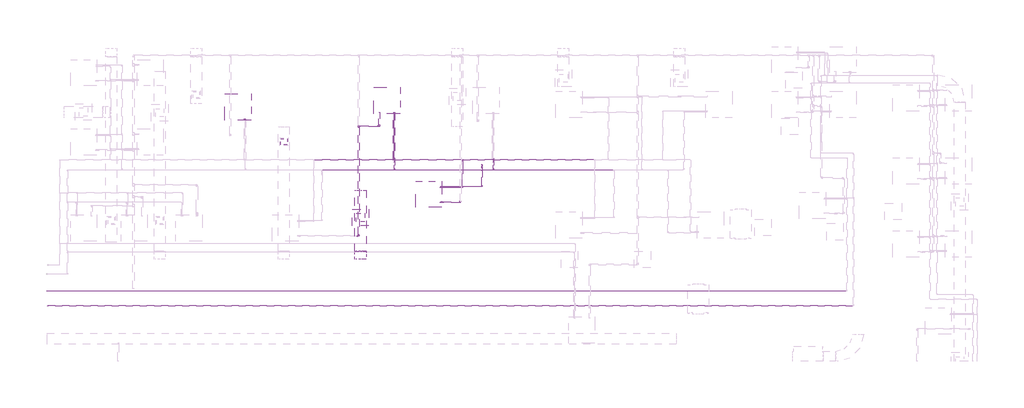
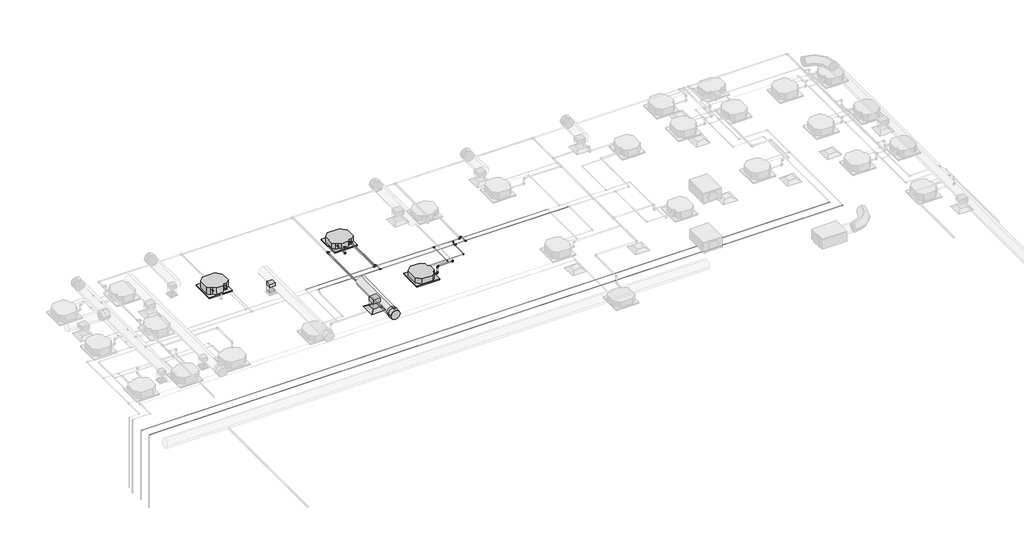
# One storey, part 16 of 22: 33 pipe fittings, 28 pipe segments, 3 duct fittings, 3 duct segments, 3 proxies, 1 air terminal.
"""IFC4 building model written with IfcOpenShell, lengths in millimetres."""

from ifc_helpers import new_model, si_unit, point, frame, frame_2d, origin, place, context, project, spatial, polyline, circle_curve, trimmed, segment, composite_curve, outline, extrude, transform, mapped, element, save
from components import air_terminal_ff221211, mechanical_equipment_77aa587a, mechanical_equipment_53173f38, duct_fitting_570af4ff, duct_fitting_f399081e, duct_fitting_95c1ddea, pipe_fitting_062ba67a, pipe_fitting_144f4440, pipe_fitting_14eb6376, pipe_fitting_c900cfc2, pipe_fitting_16c020f5, pipe_fitting_afe73776, pipe_fitting_a9265b51, pipe_fitting_09966660, pipe_fitting_501e5992, pipe_fitting_59d1f3e3, pipe_fitting_648138cd, pipe_fitting_58ab9b66, pipe_fitting_f1a24d16, pipe_fitting_da16c1b3, pipe_fitting_5a6d96d3, pipe_fitting_878c9596, pipe_fitting_9306bac7

model = new_model("IFC4")

# Units and contexts
model_context = context("Model", 3, world=origin())
ifc_project = project(units=[si_unit("LENGTHUNIT", "METRE", prefix="MILLI")], contexts=[model_context])

# Site, building, storey
site = spatial("IfcSite", under=ifc_project)
building = spatial("IfcBuilding", under=site)
storey = spatial("IfcBuildingStorey", under=building, Name="Nível 2", Elevation=3880.0)

# Air terminal
placement = place(None, origin())
air_terminal_shape = air_terminal_ff221211(model_context)
element("IfcAirTerminal", 1, ObjectType="M_Difusor de fornecimento : 600 x 600 Face 300 x 300 Conexão", at=placement, inside=storey, context=model_context, shape_type="MappedRepresentation", body=[
    mapped(air_terminal_shape, transform((8490.1041889, 3655.6977008, 6880.0), x_axis=(1.0, 0.0, 0.0), y_axis=(0.0, 1.0, 0.0), z_axis=(0.0, 0.0, 1.0))),
])

# Proxies
mechanical_equipment_shape = mechanical_equipment_77aa587a(model_context)
element("IfcBuildingElementProxy", 2, Name="Midea_VRF_Indoor_4-way Cassette_MI-56(71,80)Q4_DHN1-D (2nd DC) : MI2-71Q4DHN1", ObjectType="Midea_VRF_Indoor_4-way Cassette_MI-56(71,80)Q4_DHN1-D (2nd DC) : MI2-71Q4DHN1", at=placement, inside=storey, context=model_context, shape_type="MappedRepresentation", body=[
    mapped(mechanical_equipment_shape, transform((10949.3488999, 4497.8510207, 6880.0), x_axis=(1.0, 0.0, 0.0), y_axis=(0.0, 1.0, 0.0), z_axis=(0.0, 0.0, 1.0))),
])
element("IfcBuildingElementProxy", 3, Name="Midea_VRF_Indoor_4-way Cassette_MI-56(71,80)Q4_DHN1-D (2nd DC) : MI2-71Q4DHN1", ObjectType="Midea_VRF_Indoor_4-way Cassette_MI-56(71,80)Q4_DHN1-D (2nd DC) : MI2-71Q4DHN1", at=placement, inside=storey, context=model_context, shape_type="MappedRepresentation", body=[
    mapped(mechanical_equipment_shape, transform((9444.4233205, 7877.9692139, 6880.0), x_axis=(0.0, -1.0, 0.0), y_axis=(1.0, 0.0, 0.0), z_axis=(0.0, 0.0, 1.0))),
])
mechanical_equipment_2_shape = mechanical_equipment_53173f38(model_context)
element("IfcBuildingElementProxy", 4, Name="Midea_VRF_Indoor_4-way Cassette_MI-90(100,112,140)Q4_DHN1-D (2nd DC) : MI2-140Q4DHN1", ObjectType="Midea_VRF_Indoor_4-way Cassette_MI-90(100,112,140)Q4_DHN1-D (2nd DC) : MI2-140Q4DHN1", at=placement, inside=storey, context=model_context, shape_type="MappedRepresentation", body=[
    mapped(mechanical_equipment_2_shape, transform((4068.0309344, 7647.3186987, 6880.0), x_axis=(0.0, -1.0, 0.0), y_axis=(1.0, 0.0, 0.0), z_axis=(0.0, 0.0, 1.0))),
])

# Duct fittings
duct_fitting_shape = duct_fitting_570af4ff(model_context)
element("IfcDuctFitting", 5, ObjectType="M_Encaixe de duto retangular : Padrão", at=placement, inside=storey, context=model_context, shape_type="MappedRepresentation", body=[
    mapped(duct_fitting_shape, transform((5726.1234834, 6394.027526, 7301.0), x_axis=(0.0, 0.0, -1.0), y_axis=(0.0, -1.0, 0.0), z_axis=(-1.0, 0.0, 0.0))),
])
duct_fitting_2_shape = duct_fitting_f399081e(model_context)
element("IfcDuctFitting", 6, ObjectType="M_Encaixe de duto redondo : Padrão", at=placement, inside=storey, context=model_context, shape_type="MappedRepresentation", body=[
    mapped(duct_fitting_2_shape, transform((8490.1041889, 2337.3539749, 7501.0), x_axis=(0.0, 1.0, 0.0), y_axis=(1.0, 0.0, 0.0), z_axis=(0.0, 0.0, -1.0))),
])
duct_fitting_3_shape = duct_fitting_95c1ddea(model_context)
element("IfcDuctFitting", 7, ObjectType="M_Encaixe de duto retangular : Padrão", at=placement, inside=storey, context=model_context, shape_type="MappedRepresentation", body=[
    mapped(duct_fitting_3_shape, transform((8490.1041889, 3655.6977008, 7301.0), x_axis=(0.0, 0.0, -1.0), y_axis=(0.0, -1.0, 0.0), z_axis=(-1.0, 0.0, 0.0))),
])

# Duct segments
element("IfcDuctSegment", 8, ObjectType="Torneiras / Raio curto", at=placement, inside=storey, context=model_context, shape_type="SweptSolid", body=[
    extrude(outline(composite_curve([segment(trimmed(circle_curve(frame_2d((7501.0, 8490.1041889)), 200.0), [point((7501.0, 8690.1041889))], [point((7701.0, 8490.1041889))], False, "CARTESIAN"), True, "CONTINUOUS"), segment(trimmed(circle_curve(frame_2d((7501.0, 8490.1041889)), 200.0), [point((7701.0, 8490.1041889))], [point((7501.0, 8290.1041889))], False, "CARTESIAN"), True, "CONTINUOUS"), segment(trimmed(circle_curve(frame_2d((7501.0, 8490.1041889)), 200.0), [point((7501.0, 8290.1041889))], [point((7301.0, 8490.1041889))], False, "CARTESIAN"), True, "CONTINUOUS"), segment(trimmed(circle_curve(frame_2d((7501.0, 8490.1041889)), 200.0), [point((7301.0, 8490.1041889))], [point((7501.0, 8690.1041889))], False, "CARTESIAN"), True, "CONTINUOUS")], self_intersect=False)), frame((0.0, 2438.9539749, 0.0), z_axis=(0.0, 1.0, 0.0), x_axis=(0.0, 0.0, 1.0)), (0.0, 0.0, 1.0), 2198.4),
])
element("IfcDuctSegment", 9, ObjectType="Raios cotovelos / torneiras", at=placement, inside=storey, context=model_context, shape_type="SweptSolid", body=[
    extrude(outline(polyline([(8640.1041889, 3805.6977008), (8640.1041889, 3505.6977008), (8340.1041889, 3505.6977008), (8340.1041889, 3805.6977008), (8640.1041889, 3805.6977008)])), frame((0.0, 0.0, 6981.6), z_axis=(0.0, 0.0, 1.0), x_axis=(1.0, 0.0, 0.0)), (0.0, 0.0, 1.0), 217.8),
])
element("IfcDuctSegment", 10, ObjectType="Raios cotovelos / torneiras", at=placement, inside=storey, context=model_context, shape_type="SweptSolid", body=[
    extrude(outline(polyline([(5838.6234834, 6506.527526), (5838.6234834, 6281.527526), (5613.6234834, 6281.527526), (5613.6234834, 6506.527526), (5838.6234834, 6506.527526)])), frame((0.0, 0.0, 6885.0), z_axis=(0.0, 0.0, 1.0), x_axis=(1.0, 0.0, 0.0)), (0.0, 0.0, 1.0), 314.4),
])

# Pipe fittings
pipe_fitting_shape = pipe_fitting_062ba67a(model_context)
element("IfcPipeFitting", 11, ObjectType="Cotovelo - PVC - CW : Padrão", at=placement, inside=storey, context=model_context, shape_type="MappedRepresentation", body=[
    mapped(pipe_fitting_shape, transform((9159.4233205, 6952.969214, 7062.3), x_axis=(0.0, -0.999999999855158, -1.70201065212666e-05), y_axis=(0.0, -1.70201065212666e-05, 0.999999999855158), z_axis=(-1.0, 0.0, 0.0))),
])
pipe_fitting_2_shape = pipe_fitting_144f4440(model_context)
element("IfcPipeFitting", 12, ObjectType="Cotovelo - PVC - CW : Padrão", at=placement, inside=storey, context=model_context, shape_type="MappedRepresentation", body=[
    mapped(pipe_fitting_2_shape, transform((11444.7486473, 4212.8510207, 7062.3085101), x_axis=(1.0, 0.0, 0.0), y_axis=(0.0, 0.0, 1.0), z_axis=(0.0, -1.0, 0.0))),
])
element("IfcPipeFitting", 13, ObjectType="Cotovelo - PVC - CW : Padrão", at=placement, inside=storey, context=model_context, shape_type="MappedRepresentation", body=[
    mapped(pipe_fitting_2_shape, transform((11444.7486473, 4212.8510207, 7360.6313654), x_axis=(0.0, 0.0, 1.0), y_axis=(1.0, 0.0, 0.0), z_axis=(0.0, 1.0, 0.0))),
])
element("IfcPipeFitting", 14, ObjectType="Cotovelo - PVC - CW : Padrão", at=placement, inside=storey, context=model_context, shape_type="MappedRepresentation", body=[
    mapped(pipe_fitting_2_shape, transform((12100.5253116, 4212.8510207, 7360.6313654), x_axis=(1.0, 0.0, 0.0), y_axis=(0.0, 1.0, 0.0), z_axis=(0.0, 0.0, 1.0))),
])
element("IfcPipeFitting", 15, ObjectType="Cotovelo - PVC - CW : Padrão", at=placement, inside=storey, context=model_context, shape_type="MappedRepresentation", body=[
    mapped(pipe_fitting_2_shape, transform((8425.2732992, 2995.8653729, 7360.6313654), x_axis=(1.0, 0.0, 0.0), y_axis=(0.0, 1.0, 0.0), z_axis=(0.0, 0.0, 1.0))),
])
element("IfcPipeFitting", 16, ObjectType="Cotovelo - PVC - CW : Padrão", at=placement, inside=storey, context=model_context, shape_type="MappedRepresentation", body=[
    mapped(pipe_fitting_2_shape, transform((9159.4233205, 6952.969214, 7360.6313654), x_axis=(0.0, 0.0, 1.0), y_axis=(-1.0, 0.0, 0.0), z_axis=(0.0, -1.0, 0.0))),
])
pipe_fitting_3_shape = pipe_fitting_14eb6376(model_context)
element("IfcPipeFitting", 17, ObjectType="Tê de redução - PVC - CW : Padrão", at=placement, inside=storey, context=model_context, shape_type="MappedRepresentation", body=[
    mapped(pipe_fitting_3_shape, transform((8425.2732992, 6952.969214, 7360.6313654), x_axis=(0.0, 1.0, 0.0), y_axis=(-1.0, 0.0, 0.0), z_axis=(0.0, 0.0, 1.0))),
])
pipe_fitting_4_shape = pipe_fitting_c900cfc2(model_context)
element("IfcPipeFitting", 18, ObjectType="Bucha de redução reta - Soldada - CU : Padrão", at=placement, inside=storey, context=model_context, shape_type="MappedRepresentation", body=[
    mapped(pipe_fitting_4_shape, transform((11374.3488999, 4771.0618343, 7062.3085101), x_axis=(1.0, 0.0, 0.0), y_axis=(0.0, 1.0, 0.0), z_axis=(0.0, 0.0, 1.0))),
])
pipe_fitting_5_shape = pipe_fitting_16c020f5(model_context)
element("IfcPipeFitting", 19, ObjectType="Cotovelo - Soldado - CU : Padrão", at=placement, inside=storey, context=model_context, shape_type="MappedRepresentation", body=[
    mapped(pipe_fitting_5_shape, transform((12874.3488999, 4771.0618343, 7062.3), x_axis=(0.9999999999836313, 0.0, -5.7216554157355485e-06), y_axis=(0.0, 1.0, 0.0), z_axis=(5.7216554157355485e-06, 0.0, 0.9999999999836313))),
])
pipe_fitting_6_shape = pipe_fitting_afe73776(model_context)
element("IfcPipeFitting", 20, ObjectType="Bucha de redução reta - Soldada - CU : Padrão", at=placement, inside=storey, context=model_context, shape_type="MappedRepresentation", body=[
    mapped(pipe_fitting_6_shape, transform((12874.3488999, 5580.0060059, 7132.3), x_axis=(0.0, -1.0, 0.0), y_axis=(1.0, 0.0, 0.0), z_axis=(0.0, 0.0, 1.0))),
])
element("IfcPipeFitting", 21, ObjectType="Bucha de redução reta - Soldada - CU : Padrão", at=placement, inside=storey, context=model_context, shape_type="MappedRepresentation", body=[
    mapped(pipe_fitting_6_shape, transform((13285.2493269, 5660.0589267, 7132.3001584), x_axis=(0.0, 0.9999999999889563, 4.699732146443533e-06), y_axis=(-1.0, 0.0, 0.0), z_axis=(0.0, -4.699732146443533e-06, 0.9999999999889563))),
])
element("IfcPipeFitting", 22, ObjectType="Bucha de redução reta - Soldada - CU : Padrão", at=placement, inside=storey, context=model_context, shape_type="MappedRepresentation", body=[
    mapped(pipe_fitting_6_shape, transform((9717.6341342, 5660.0589119, 7132.3001862), x_axis=(0.0, 0.9999999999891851, 4.650803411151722e-06), y_axis=(-1.0000000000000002, 0.0, 0.0), z_axis=(0.0, -4.650803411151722e-06, 0.9999999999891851))),
])
pipe_fitting_7_shape = pipe_fitting_a9265b51(model_context)
element("IfcPipeFitting", 23, ObjectType="Cotovelo - Soldado - CU : Padrão", at=placement, inside=storey, context=model_context, shape_type="MappedRepresentation", body=[
    mapped(pipe_fitting_7_shape, transform((12874.3488999, 5538.3685059, 7132.3), x_axis=(0.0, -1.0, 0.0), y_axis=(0.0, 0.0, -1.0), z_axis=(1.0, 0.0, 0.0))),
])
element("IfcPipeFitting", 24, ObjectType="Cotovelo - Soldado - CU : Padrão", at=placement, inside=storey, context=model_context, shape_type="MappedRepresentation", body=[
    mapped(pipe_fitting_7_shape, transform((12874.3488999, 5468.3685059, 7062.3), x_axis=(0.0, -0.7071067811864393, -0.7071067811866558), y_axis=(0.0, -0.7071067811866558, 0.7071067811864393), z_axis=(-1.0, 0.0, 0.0))),
])
pipe_fitting_8_shape = pipe_fitting_09966660(model_context)
element("IfcPipeFitting", 25, ObjectType="Tê - Soldado - CU : Padrão", at=placement, inside=storey, context=model_context, shape_type="MappedRepresentation", body=[
    mapped(pipe_fitting_8_shape, transform((12874.3488999, 5380.03247, 7132.3), x_axis=(-1.0, 0.0, 0.0), y_axis=(0.0, 1.0, 0.0), z_axis=(0.0, 0.0, -1.0))),
])
element("IfcPipeFitting", 26, ObjectType="Tê - Soldado - CU : Padrão", at=placement, inside=storey, context=model_context, shape_type="MappedRepresentation", body=[
    mapped(pipe_fitting_8_shape, transform((13285.2493269, 5380.03247, 7132.2999703), x_axis=(-1.0, 0.0, 0.0), y_axis=(0.0, -0.9999999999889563, -4.699732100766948e-06), z_axis=(0.0, -4.699732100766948e-06, 0.9999999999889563))),
])
element("IfcPipeFitting", 27, ObjectType="Tê - Soldado - CU : Padrão", at=placement, inside=storey, context=model_context, shape_type="MappedRepresentation", body=[
    mapped(pipe_fitting_8_shape, transform((9717.6341342, 5380.03247, 7132.3), x_axis=(-1.0, 0.0, 0.0), y_axis=(0.0, -0.9999999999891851, -4.650803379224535e-06), z_axis=(0.0, -4.650803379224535e-06, 0.9999999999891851))),
])
pipe_fitting_9_shape = pipe_fitting_501e5992(model_context)
element("IfcPipeFitting", 28, ObjectType="Bucha de redução reta - Soldada - CU : Padrão", at=placement, inside=storey, context=model_context, shape_type="MappedRepresentation", body=[
    mapped(pipe_fitting_9_shape, transform((9717.6341342, 7440.3103139, 7062.3084512), x_axis=(0.0, 0.9999999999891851, 4.65080339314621e-06), y_axis=(-1.0000000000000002, 0.0, 0.0), z_axis=(0.0, -4.65080339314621e-06, 0.9999999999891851))),
])
element("IfcPipeFitting", 29, ObjectType="Bucha de redução reta - Soldada - CU : Padrão", at=placement, inside=storey, context=model_context, shape_type="MappedRepresentation", body=[
    mapped(pipe_fitting_9_shape, transform((4341.241748, 7209.6597987, 7132.3084423), x_axis=(0.0, 0.9999999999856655, 5.3543722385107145e-06), y_axis=(-1.0000000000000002, 0.0, 0.0), z_axis=(0.0, -5.3543722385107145e-06, 0.9999999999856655))),
])
pipe_fitting_10_shape = pipe_fitting_59d1f3e3(model_context)
element("IfcPipeFitting", 30, ObjectType="Bucha de redução reta - Soldada - CU : Padrão", at=placement, inside=storey, context=model_context, shape_type="MappedRepresentation", body=[
    mapped(pipe_fitting_10_shape, transform((11374.3488999, 4737.2593925, 7026.8446487), x_axis=(1.0, 0.0, 0.0), y_axis=(0.0, 1.0, 0.0), z_axis=(0.0, 0.0, 1.0))),
])
pipe_fitting_11_shape = pipe_fitting_648138cd(model_context)
element("IfcPipeFitting", 31, ObjectType="Cotovelo - Soldado - CU : Padrão", at=placement, inside=storey, context=model_context, shape_type="MappedRepresentation", body=[
    mapped(pipe_fitting_11_shape, transform((12174.3488999, 4737.2593925, 7026.8446487), x_axis=(1.0, 0.0, 0.0), y_axis=(0.0, 1.0, 0.0), z_axis=(0.0, 0.0, 1.0))),
])
pipe_fitting_12_shape = pipe_fitting_58ab9b66(model_context)
element("IfcPipeFitting", 32, ObjectType="Bucha de redução reta - Soldada - CU : Padrão", at=placement, inside=storey, context=model_context, shape_type="MappedRepresentation", body=[
    mapped(pipe_fitting_12_shape, transform((9683.8316923, 7443.2948139, 7026.8446487), x_axis=(0.0, 1.0, 0.0), y_axis=(-1.0, 0.0, 0.0), z_axis=(0.0, 0.0, 1.0))),
])
pipe_fitting_13_shape = pipe_fitting_f1a24d16(model_context)
element("IfcPipeFitting", 33, ObjectType="Bucha de redução reta - Soldada - CU : Padrão", at=placement, inside=storey, context=model_context, shape_type="MappedRepresentation", body=[
    mapped(pipe_fitting_13_shape, transform((4307.4393062, 7212.6395987, 7026.8446487), x_axis=(0.0, 1.0, 0.0), y_axis=(-1.0, 0.0, 0.0), z_axis=(0.0, 0.0, 1.0))),
])
pipe_fitting_14_shape = pipe_fitting_da16c1b3(model_context)
element("IfcPipeFitting", 34, ObjectType="Tê - Soldado - CU : Padrão", at=placement, inside=storey, context=model_context, shape_type="MappedRepresentation", body=[
    mapped(pipe_fitting_14_shape, transform((12174.3488999, 5743.0785153, 7026.8446487), x_axis=(1.0, 0.0, 0.0), y_axis=(0.0, 1.0, 0.0), z_axis=(0.0, 0.0, 1.0))),
])
element("IfcPipeFitting", 35, ObjectType="Tê - Soldado - CU : Padrão", at=placement, inside=storey, context=model_context, shape_type="MappedRepresentation", body=[
    mapped(pipe_fitting_14_shape, transform((13251.4468851, 5743.0785153, 7026.8446487), x_axis=(1.0, 0.0, 0.0), y_axis=(0.0, -1.0, 0.0), z_axis=(0.0, 0.0, -1.0))),
])
element("IfcPipeFitting", 36, ObjectType="Tê - Soldado - CU : Padrão", at=placement, inside=storey, context=model_context, shape_type="MappedRepresentation", body=[
    mapped(pipe_fitting_14_shape, transform((9683.8316923, 5743.0785153, 7026.8446487), x_axis=(1.0, 0.0, 0.0), y_axis=(0.0, -1.0, 0.0), z_axis=(0.0, 0.0, -1.0))),
])
pipe_fitting_15_shape = pipe_fitting_5a6d96d3(model_context)
element("IfcPipeFitting", 37, ObjectType="Bucha de redução reta - Soldada - CU : Padrão", at=placement, inside=storey, context=model_context, shape_type="MappedRepresentation", body=[
    mapped(pipe_fitting_15_shape, transform((12174.3488999, 5718.0615153, 7026.8446487), x_axis=(0.0, -1.0, 0.0), y_axis=(1.0, 0.0, 0.0), z_axis=(0.0, 0.0, 1.0))),
])
element("IfcPipeFitting", 38, ObjectType="Bucha de redução reta - Soldada - CU : Padrão", at=placement, inside=storey, context=model_context, shape_type="MappedRepresentation", body=[
    mapped(pipe_fitting_15_shape, transform((13251.4468851, 5768.0955153, 7026.8446487), x_axis=(0.0, 1.0, 0.0), y_axis=(-1.0, 0.0, 0.0), z_axis=(0.0, 0.0, 1.0))),
])
element("IfcPipeFitting", 39, ObjectType="Bucha de redução reta - Soldada - CU : Padrão", at=placement, inside=storey, context=model_context, shape_type="MappedRepresentation", body=[
    mapped(pipe_fitting_15_shape, transform((9683.8316923, 5768.0955153, 7026.8446487), x_axis=(0.0, 1.0, 0.0), y_axis=(-1.0, 0.0, 0.0), z_axis=(0.0, 0.0, 1.0))),
])
pipe_fitting_16_shape = pipe_fitting_878c9596(model_context)
element("IfcPipeFitting", 40, ObjectType="Cotovelo - Soldado - CU : Padrão", at=placement, inside=storey, context=model_context, shape_type="MappedRepresentation", body=[
    mapped(pipe_fitting_16_shape, transform((13285.2493269, 5701.6964267, 7132.3003541), x_axis=(0.0, 0.9999999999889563, 4.699732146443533e-06), y_axis=(0.0, 4.699732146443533e-06, -0.9999999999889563), z_axis=(-1.0, 0.0, 0.0))),
])
element("IfcPipeFitting", 41, ObjectType="Cotovelo - Soldado - CU : Padrão", at=placement, inside=storey, context=model_context, shape_type="MappedRepresentation", body=[
    mapped(pipe_fitting_16_shape, transform((13285.2493269, 5771.6965012, 7062.3006085), x_axis=(0.0, 0.7071084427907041, -0.7071051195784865), y_axis=(0.0, 0.7071051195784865, 0.7071084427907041), z_axis=(1.0, 0.0, 0.0))),
])
pipe_fitting_17_shape = pipe_fitting_9306bac7(model_context)
element("IfcPipeFitting", 42, ObjectType="Cotovelo - Soldado - CU : Padrão", at=placement, inside=storey, context=model_context, shape_type="MappedRepresentation", body=[
    mapped(pipe_fitting_17_shape, transform((9717.6341342, 5701.6964119, 7132.3003798), x_axis=(0.0, 0.9999999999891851, 4.650803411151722e-06), y_axis=(0.0, 4.650803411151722e-06, -0.9999999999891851), z_axis=(-1.0, 0.0, 0.0))),
])
element("IfcPipeFitting", 43, ObjectType="Cotovelo - Soldado - CU : Padrão", at=placement, inside=storey, context=model_context, shape_type="MappedRepresentation", body=[
    mapped(pipe_fitting_17_shape, transform((9717.6341342, 5771.6963676, 7062.3007497), x_axis=(0.0, 0.7071084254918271, -0.7071051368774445), y_axis=(0.0, 0.7071051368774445, 0.7071084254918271), z_axis=(1.0, 0.0, 0.0))),
])

# Pipe segments
element("IfcPipeSegment", 44, ObjectType="Tubos de cobre HVAC", at=placement, inside=storey, context=model_context, shape_type="SweptSolid", body=[
    extrude(outline(composite_curve([segment(trimmed(circle_curve(frame_2d((473.4586233, 7132.3)), 9.525), [point((482.9836233, 7132.3))], [point((473.4586233, 7122.775))], False, "CARTESIAN"), True, "CONTINUOUS"), segment(trimmed(circle_curve(frame_2d((473.4586233, 7132.3)), 9.525), [point((473.4586233, 7122.775))], [point((463.9336233, 7132.3))], False, "CARTESIAN"), True, "CONTINUOUS"), segment(trimmed(circle_curve(frame_2d((473.4586233, 7132.3)), 9.525), [point((463.9336233, 7132.3))], [point((473.4586233, 7141.825))], False, "CARTESIAN"), True, "CONTINUOUS"), segment(trimmed(circle_curve(frame_2d((473.4586233, 7132.3)), 9.525), [point((473.4586233, 7141.825))], [point((482.9836233, 7132.3))], False, "CARTESIAN"), True, "CONTINUOUS")], self_intersect=False)), frame((-2782.4301409, 0.0, 0.0), z_axis=(1.0, 0.0, 0.0), x_axis=(0.0, 1.0, 0.0)), (0.0, 0.0, 1.0), 29037.082),
])
element("IfcPipeSegment", 45, ObjectType="Tubos de cobre HVAC", at=placement, inside=storey, context=model_context, shape_type="SweptSolid", body=[
    extrude(outline(composite_curve([segment(trimmed(circle_curve(frame_2d((5380.03247, 7132.2999703)), 9.525), [point((5370.50747, 7132.2999703))], [point((5380.03247, 7141.8249703))], False, "CARTESIAN"), True, "CONTINUOUS"), segment(trimmed(circle_curve(frame_2d((5380.03247, 7132.2999703)), 9.525), [point((5380.03247, 7141.8249703))], [point((5389.55747, 7132.2999703))], False, "CARTESIAN"), True, "CONTINUOUS"), segment(trimmed(circle_curve(frame_2d((5380.03247, 7132.2999703)), 9.525), [point((5389.55747, 7132.2999703))], [point((5380.03247, 7122.7749703))], False, "CARTESIAN"), True, "CONTINUOUS"), segment(trimmed(circle_curve(frame_2d((5380.03247, 7132.2999703)), 9.525), [point((5380.03247, 7122.7749703))], [point((5370.50747, 7132.2999703))], False, "CARTESIAN"), True, "CONTINUOUS")], self_intersect=False)), frame((13315.4445769, 0.0, 0.0), z_axis=(1.0, 0.0, 0.0), x_axis=(0.0, 1.0, 0.0)), (0.0, 0.0, 1.0), 4293.6785907),
])
element("IfcPipeSegment", 46, ObjectType="Tubos de cobre HVAC", at=placement, inside=storey, context=model_context, shape_type="SweptSolid", body=[
    extrude(outline(composite_curve([segment(trimmed(circle_curve(frame_2d((0.0, -7.935)), 7.935), [point((-7.935, -7.935))], [point((0.0, 0.0))], False, "CARTESIAN"), True, "CONTINUOUS"), segment(trimmed(circle_curve(frame_2d((0.0, -7.935)), 7.935), [point((0.0, 0.0))], [point((7.935, -7.935))], False, "CARTESIAN"), True, "CONTINUOUS"), segment(trimmed(circle_curve(frame_2d((0.0, -7.935)), 7.935), [point((7.935, -7.935))], [point((0.0, -15.87))], False, "CARTESIAN"), True, "CONTINUOUS"), segment(trimmed(circle_curve(frame_2d((0.0, -7.935)), 7.935), [point((0.0, -15.87))], [point((-7.935, -7.935))], False, "CARTESIAN"), True, "CONTINUOUS")], self_intersect=False)), frame((12845.3702545, 4771.0618343, 7054.3651658), z_axis=(-0.9999999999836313, 0.0, 5.721655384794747e-06), x_axis=(0.0, 1.0, 0.0)), (0.0, 0.0, 1.0), 1458.3625),
])
element("IfcPipeSegment", 47, ObjectType="Tubos de cobre HVAC", at=placement, inside=storey, context=model_context, shape_type="SweptSolid", body=[
    extrude(outline(composite_curve([segment(trimmed(circle_curve(frame_2d((7062.3, 12874.3488999)), 7.935), [point((7062.3, 12866.4138999))], [point((7054.365, 12874.3488999))], False, "CARTESIAN"), True, "CONTINUOUS"), segment(trimmed(circle_curve(frame_2d((7062.3, 12874.3488999)), 7.935), [point((7054.365, 12874.3488999))], [point((7062.3, 12882.2838999))], False, "CARTESIAN"), True, "CONTINUOUS"), segment(trimmed(circle_curve(frame_2d((7062.3, 12874.3488999)), 7.935), [point((7062.3, 12882.2838999))], [point((7070.235, 12874.3488999))], False, "CARTESIAN"), True, "CONTINUOUS"), segment(trimmed(circle_curve(frame_2d((7062.3, 12874.3488999)), 7.935), [point((7070.235, 12874.3488999))], [point((7062.3, 12866.4138999))], False, "CARTESIAN"), True, "CONTINUOUS")], self_intersect=False)), frame((0.0, 4800.0404343, 0.0), z_axis=(0.0, 1.0, 0.0), x_axis=(0.0, 0.0, 1.0)), (0.0, 0.0, 1.0), 639.3494716),
])
element("IfcPipeSegment", 48, ObjectType="Tubos de cobre HVAC", at=placement, inside=storey, context=model_context, shape_type="SweptSolid", body=[
    extrude(outline(composite_curve([segment(trimmed(circle_curve(frame_2d((0.0, -7.935)), 7.935), [point((-7.935, -7.935))], [point((0.0, 0.0))], False, "CARTESIAN"), True, "CONTINUOUS"), segment(trimmed(circle_curve(frame_2d((0.0, -7.935)), 7.935), [point((0.0, 0.0))], [point((7.935, -7.935))], False, "CARTESIAN"), True, "CONTINUOUS"), segment(trimmed(circle_curve(frame_2d((0.0, -7.935)), 7.935), [point((7.935, -7.935))], [point((0.0, -15.87))], False, "CARTESIAN"), True, "CONTINUOUS"), segment(trimmed(circle_curve(frame_2d((0.0, -7.935)), 7.935), [point((0.0, -15.87))], [point((-7.935, -7.935))], False, "CARTESIAN"), True, "CONTINUOUS")], self_intersect=False)), frame((12874.3488999, 5494.4703628, 7077.1800723), z_axis=(0.0, 0.7071067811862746, 0.7071067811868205), x_axis=(1.0, 0.0, 0.0)), (0.0, 0.0, 1.0), 41.0377494),
])
element("IfcPipeSegment", 49, ObjectType="Tubos de cobre HVAC", at=placement, inside=storey, context=model_context, shape_type="SweptSolid", body=[
    extrude(outline(composite_curve([segment(trimmed(circle_curve(frame_2d((5380.03247, 7132.3)), 9.525), [point((5370.50747, 7132.3))], [point((5380.03247, 7141.825))], False, "CARTESIAN"), True, "CONTINUOUS"), segment(trimmed(circle_curve(frame_2d((5380.03247, 7132.3)), 9.525), [point((5380.03247, 7141.825))], [point((5389.55747, 7132.3))], False, "CARTESIAN"), True, "CONTINUOUS"), segment(trimmed(circle_curve(frame_2d((5380.03247, 7132.3)), 9.525), [point((5389.55747, 7132.3))], [point((5380.03247, 7122.775))], False, "CARTESIAN"), True, "CONTINUOUS"), segment(trimmed(circle_curve(frame_2d((5380.03247, 7132.3)), 9.525), [point((5380.03247, 7122.775))], [point((5370.50747, 7132.3))], False, "CARTESIAN"), True, "CONTINUOUS")], self_intersect=False)), frame((9747.8293842, 0.0, 0.0), z_axis=(1.0, 0.0, 0.0), x_axis=(0.0, 1.0, 0.0)), (0.0, 0.0, 1.0), 3096.3242657),
])
element("IfcPipeSegment", 50, ObjectType="Tubos de cobre HVAC", at=placement, inside=storey, context=model_context, shape_type="SweptSolid", body=[
    extrude(outline(composite_curve([segment(trimmed(circle_curve(frame_2d((7132.300112, 13285.2493269)), 9.525), [point((7132.300112, 13294.7743269))], [point((7141.825112, 13285.2493269))], False, "CARTESIAN"), True, "CONTINUOUS"), segment(trimmed(circle_curve(frame_2d((7132.300112, 13285.2493269)), 9.525), [point((7141.825112, 13285.2493269))], [point((7132.300112, 13275.7243269))], False, "CARTESIAN"), True, "CONTINUOUS"), segment(trimmed(circle_curve(frame_2d((7132.300112, 13285.2493269)), 9.525), [point((7132.300112, 13275.7243269))], [point((7122.775112, 13285.2493269))], False, "CARTESIAN"), True, "CONTINUOUS"), segment(trimmed(circle_curve(frame_2d((7132.300112, 13285.2493269)), 9.525), [point((7122.775112, 13285.2493269))], [point((7132.300112, 13294.7743269))], False, "CARTESIAN"), True, "CONTINUOUS")], self_intersect=False)), frame((0.0, 5410.19297, 0.0), z_axis=(0.0, 1.0, 0.0), x_axis=(0.0, 0.0, 1.0)), (0.0, 0.0, 1.0), 249.8659567),
])
element("IfcPipeSegment", 51, ObjectType="Tubos de cobre HVAC", at=placement, inside=storey, context=model_context, shape_type="SweptSolid", body=[
    extrude(outline(composite_curve([segment(trimmed(circle_curve(frame_2d((0.0, -7.935)), 7.935), [point((7.935, -7.935))], [point((0.0, -15.87))], False, "CARTESIAN"), True, "CONTINUOUS"), segment(trimmed(circle_curve(frame_2d((0.0, -7.935)), 7.935), [point((0.0, -15.87))], [point((-7.935, -7.935))], False, "CARTESIAN"), True, "CONTINUOUS"), segment(trimmed(circle_curve(frame_2d((0.0, -7.935)), 7.935), [point((-7.935, -7.935))], [point((0.0, 0.0))], False, "CARTESIAN"), True, "CONTINUOUS"), segment(trimmed(circle_curve(frame_2d((0.0, -7.935)), 7.935), [point((0.0, 0.0))], [point((7.935, -7.935))], False, "CARTESIAN"), True, "CONTINUOUS")], self_intersect=False)), frame((13285.2493269, 5756.8163676, 7088.4024304), z_axis=(0.0, -0.7071084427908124, 0.7071051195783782), x_axis=(1.0, 0.0, 0.0)), (0.0, 0.0, 1.0), 41.0376221),
])
element("IfcPipeSegment", 52, ObjectType="Tubos de cobre HVAC", at=placement, inside=storey, context=model_context, shape_type="SweptSolid", body=[
    extrude(outline(composite_curve([segment(trimmed(circle_curve(frame_2d((5380.03247, 7132.3)), 9.525), [point((5370.50747, 7132.3))], [point((5380.03247, 7141.825))], False, "CARTESIAN"), True, "CONTINUOUS"), segment(trimmed(circle_curve(frame_2d((5380.03247, 7132.3)), 9.525), [point((5380.03247, 7141.825))], [point((5389.55747, 7132.3))], False, "CARTESIAN"), True, "CONTINUOUS"), segment(trimmed(circle_curve(frame_2d((5380.03247, 7132.3)), 9.525), [point((5389.55747, 7132.3))], [point((5380.03247, 7122.775))], False, "CARTESIAN"), True, "CONTINUOUS"), segment(trimmed(circle_curve(frame_2d((5380.03247, 7132.3)), 9.525), [point((5380.03247, 7122.775))], [point((5370.50747, 7132.3))], False, "CARTESIAN"), True, "CONTINUOUS")], self_intersect=False)), frame((12904.5441499, 0.0, 0.0), z_axis=(1.0, 0.0, 0.0), x_axis=(0.0, 1.0, 0.0)), (0.0, 0.0, 1.0), 350.5099271),
])
element("IfcPipeSegment", 53, ObjectType="Tubos de cobre HVAC", at=placement, inside=storey, context=model_context, shape_type="SweptSolid", body=[
    extrude(outline(composite_curve([segment(trimmed(circle_curve(frame_2d((0.0, 7.935)), 7.935), [point((0.0, 15.87))], [point((7.935, 7.935))], False, "CARTESIAN"), True, "CONTINUOUS"), segment(trimmed(circle_curve(frame_2d((0.0, 7.935)), 7.935), [point((7.935, 7.935))], [point((0.0, 0.0))], False, "CARTESIAN"), True, "CONTINUOUS"), segment(trimmed(circle_curve(frame_2d((0.0, 7.935)), 7.935), [point((0.0, 0.0))], [point((-7.935, 7.935))], False, "CARTESIAN"), True, "CONTINUOUS"), segment(trimmed(circle_curve(frame_2d((0.0, 7.935)), 7.935), [point((-7.935, 7.935))], [point((0.0, 15.87))], False, "CARTESIAN"), True, "CONTINUOUS")], self_intersect=False)), frame((9709.6991342, 5800.6749676, 7062.3008844), z_axis=(0.0, 0.9999999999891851, 4.650803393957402e-06), x_axis=(0.0, -4.650803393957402e-06, 0.9999999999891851)), (0.0, 0.0, 1.0), 1639.6353464),
])
element("IfcPipeSegment", 54, ObjectType="Tubos de cobre HVAC", at=placement, inside=storey, context=model_context, shape_type="SweptSolid", body=[
    extrude(outline(composite_curve([segment(trimmed(circle_curve(frame_2d((7132.3001403, 9717.6341342)), 9.525), [point((7132.3001403, 9727.1591342))], [point((7141.8251403, 9717.6341342))], False, "CARTESIAN"), True, "CONTINUOUS"), segment(trimmed(circle_curve(frame_2d((7132.3001403, 9717.6341342)), 9.525), [point((7141.8251403, 9717.6341342))], [point((7132.3001403, 9708.1091342))], False, "CARTESIAN"), True, "CONTINUOUS"), segment(trimmed(circle_curve(frame_2d((7132.3001403, 9717.6341342)), 9.525), [point((7132.3001403, 9708.1091342))], [point((7122.7751403, 9717.6341342))], False, "CARTESIAN"), True, "CONTINUOUS"), segment(trimmed(circle_curve(frame_2d((7132.3001403, 9717.6341342)), 9.525), [point((7122.7751403, 9717.6341342))], [point((7132.3001403, 9727.1591342))], False, "CARTESIAN"), True, "CONTINUOUS")], self_intersect=False)), frame((0.0, 5410.19297, 0.0), z_axis=(0.0, 1.0, 0.0), x_axis=(0.0, 0.0, 1.0)), (0.0, 0.0, 1.0), 249.8659419),
])
element("IfcPipeSegment", 55, ObjectType="Tubos de cobre HVAC", at=placement, inside=storey, context=model_context, shape_type="SweptSolid", body=[
    extrude(outline(composite_curve([segment(trimmed(circle_curve(frame_2d((0.0, -7.9349999)), 7.935), [point((7.935, -7.9349999))], [point((0.0, -15.87))], False, "CARTESIAN"), True, "CONTINUOUS"), segment(trimmed(circle_curve(frame_2d((0.0, -7.9349999)), 7.935), [point((0.0, -15.87))], [point((-7.935, -7.9349999))], False, "CARTESIAN"), True, "CONTINUOUS"), segment(trimmed(circle_curve(frame_2d((0.0, -7.9349999)), 7.935), [point((-7.935, -7.9349999))], [point((0.0, 0.0))], False, "CARTESIAN"), True, "CONTINUOUS"), segment(trimmed(circle_curve(frame_2d((0.0, -7.9349999)), 7.935), [point((0.0, 0.0))], [point((7.935, -7.9349999))], False, "CARTESIAN"), True, "CONTINUOUS")], self_intersect=False)), frame((9717.6341342, 5756.8162346, 7088.4025719), z_axis=(0.0, -0.7071084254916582, 0.7071051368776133), x_axis=(1.0, 0.0, 0.0)), (0.0, 0.0, 1.0), 41.0374565),
])
element("IfcPipeSegment", 56, ObjectType="Tubos de cobre HVAC", at=placement, inside=storey, context=model_context, shape_type="SweptSolid", body=[
    extrude(outline(composite_curve([segment(trimmed(circle_curve(frame_2d((5380.03247, 7132.3)), 9.525), [point((5370.50747, 7132.3))], [point((5380.03247, 7141.825))], False, "CARTESIAN"), True, "CONTINUOUS"), segment(trimmed(circle_curve(frame_2d((5380.03247, 7132.3)), 9.525), [point((5380.03247, 7141.825))], [point((5389.55747, 7132.3))], False, "CARTESIAN"), True, "CONTINUOUS"), segment(trimmed(circle_curve(frame_2d((5380.03247, 7132.3)), 9.525), [point((5389.55747, 7132.3))], [point((5380.03247, 7122.775))], False, "CARTESIAN"), True, "CONTINUOUS"), segment(trimmed(circle_curve(frame_2d((5380.03247, 7132.3)), 9.525), [point((5380.03247, 7122.775))], [point((5370.50747, 7132.3))], False, "CARTESIAN"), True, "CONTINUOUS")], self_intersect=False)), frame((7135.0206508, 0.0, 0.0), z_axis=(1.0, 0.0, 0.0), x_axis=(0.0, 1.0, 0.0)), (0.0, 0.0, 1.0), 2552.4182334),
])
element("IfcPipeSegment", 57, ObjectType="Tubos de cobre HVAC", at=placement, inside=storey, context=model_context, shape_type="SweptSolid", body=[
    extrude(outline(composite_curve([segment(trimmed(circle_curve(frame_2d((4737.2593925, 7026.8446487)), 4.76), [point((4732.4993925, 7026.8446487))], [point((4737.2593925, 7031.6046487))], False, "CARTESIAN"), True, "CONTINUOUS"), segment(trimmed(circle_curve(frame_2d((4737.2593925, 7026.8446487)), 4.76), [point((4737.2593925, 7031.6046487))], [point((4742.0193925, 7026.8446487))], False, "CARTESIAN"), True, "CONTINUOUS"), segment(trimmed(circle_curve(frame_2d((4737.2593925, 7026.8446487)), 4.76), [point((4742.0193925, 7026.8446487))], [point((4737.2593925, 7022.0846487))], False, "CARTESIAN"), True, "CONTINUOUS"), segment(trimmed(circle_curve(frame_2d((4737.2593925, 7026.8446487)), 4.76), [point((4737.2593925, 7022.0846487))], [point((4732.4993925, 7026.8446487))], False, "CARTESIAN"), True, "CONTINUOUS")], self_intersect=False)), frame((11384.0232999, 0.0, 0.0), z_axis=(1.0, 0.0, 0.0), x_axis=(0.0, 1.0, 0.0)), (0.0, 0.0, 1.0), 766.3),
])
element("IfcPipeSegment", 58, ObjectType="Tubos de cobre HVAC", at=placement, inside=storey, context=model_context, shape_type="SweptSolid", body=[
    extrude(outline(composite_curve([segment(trimmed(circle_curve(frame_2d((7026.8446487, 12174.3488999)), 4.76), [point((7026.8446487, 12169.5888999))], [point((7022.0846487, 12174.3488999))], False, "CARTESIAN"), True, "CONTINUOUS"), segment(trimmed(circle_curve(frame_2d((7026.8446487, 12174.3488999)), 4.76), [point((7022.0846487, 12174.3488999))], [point((7026.8446487, 12179.1088999))], False, "CARTESIAN"), True, "CONTINUOUS"), segment(trimmed(circle_curve(frame_2d((7026.8446487, 12174.3488999)), 4.76), [point((7026.8446487, 12179.1088999))], [point((7031.6046487, 12174.3488999))], False, "CARTESIAN"), True, "CONTINUOUS"), segment(trimmed(circle_curve(frame_2d((7026.8446487, 12174.3488999)), 4.76), [point((7031.6046487, 12174.3488999))], [point((7026.8446487, 12169.5888999))], False, "CARTESIAN"), True, "CONTINUOUS")], self_intersect=False)), frame((0.0, 4761.2849925, 0.0), z_axis=(0.0, 1.0, 0.0), x_axis=(0.0, 0.0, 1.0)), (0.0, 0.0, 1.0), 947.1021228),
])
element("IfcPipeSegment", 59, ObjectType="Tubos de cobre HVAC", at=placement, inside=storey, context=model_context, shape_type="SweptSolid", body=[
    extrude(outline(composite_curve([segment(trimmed(circle_curve(frame_2d((5743.0785153, 7026.8446487)), 6.35), [point((5749.4285153, 7026.8446487))], [point((5743.0785153, 7020.4946487))], False, "CARTESIAN"), True, "CONTINUOUS"), segment(trimmed(circle_curve(frame_2d((5743.0785153, 7026.8446487)), 6.35), [point((5743.0785153, 7020.4946487))], [point((5736.7285153, 7026.8446487))], False, "CARTESIAN"), True, "CONTINUOUS"), segment(trimmed(circle_curve(frame_2d((5743.0785153, 7026.8446487)), 6.35), [point((5736.7285153, 7026.8446487))], [point((5743.0785153, 7033.1946487))], False, "CARTESIAN"), True, "CONTINUOUS"), segment(trimmed(circle_curve(frame_2d((5743.0785153, 7026.8446487)), 6.35), [point((5743.0785153, 7033.1946487))], [point((5749.4285153, 7026.8446487))], False, "CARTESIAN"), True, "CONTINUOUS")], self_intersect=False)), frame((12199.4323999, 0.0, 0.0), z_axis=(1.0, 0.0, 0.0), x_axis=(0.0, 1.0, 0.0)), (0.0, 0.0, 1.0), 1026.9309852),
])
element("IfcPipeSegment", 60, ObjectType="Tubos de cobre HVAC", at=placement, inside=storey, context=model_context, shape_type="SweptSolid", body=[
    extrude(outline(composite_curve([segment(trimmed(circle_curve(frame_2d((5743.0785153, 7026.8446487)), 6.35), [point((5749.4285153, 7026.8446487))], [point((5743.0785153, 7020.4946487))], False, "CARTESIAN"), True, "CONTINUOUS"), segment(trimmed(circle_curve(frame_2d((5743.0785153, 7026.8446487)), 6.35), [point((5743.0785153, 7020.4946487))], [point((5736.7285153, 7026.8446487))], False, "CARTESIAN"), True, "CONTINUOUS"), segment(trimmed(circle_curve(frame_2d((5743.0785153, 7026.8446487)), 6.35), [point((5736.7285153, 7026.8446487))], [point((5743.0785153, 7033.1946487))], False, "CARTESIAN"), True, "CONTINUOUS"), segment(trimmed(circle_curve(frame_2d((5743.0785153, 7026.8446487)), 6.35), [point((5743.0785153, 7033.1946487))], [point((5749.4285153, 7026.8446487))], False, "CARTESIAN"), True, "CONTINUOUS")], self_intersect=False)), frame((13276.5303851, 0.0, 0.0), z_axis=(1.0, 0.0, 0.0), x_axis=(0.0, 1.0, 0.0)), (0.0, 0.0, 1.0), 3637.7045326),
])
element("IfcPipeSegment", 61, ObjectType="Tubos de cobre HVAC", at=placement, inside=storey, context=model_context, shape_type="SweptSolid", body=[
    extrude(outline(composite_curve([segment(trimmed(circle_curve(frame_2d((7026.8446487, 9683.8316923)), 4.76), [point((7026.8446487, 9688.5916923))], [point((7031.6046487, 9683.8316923))], False, "CARTESIAN"), True, "CONTINUOUS"), segment(trimmed(circle_curve(frame_2d((7026.8446487, 9683.8316923)), 4.76), [point((7031.6046487, 9683.8316923))], [point((7026.8446487, 9679.0716923))], False, "CARTESIAN"), True, "CONTINUOUS"), segment(trimmed(circle_curve(frame_2d((7026.8446487, 9683.8316923)), 4.76), [point((7026.8446487, 9679.0716923))], [point((7022.0846487, 9683.8316923))], False, "CARTESIAN"), True, "CONTINUOUS"), segment(trimmed(circle_curve(frame_2d((7026.8446487, 9683.8316923)), 4.76), [point((7022.0846487, 9683.8316923))], [point((7026.8446487, 9688.5916923))], False, "CARTESIAN"), True, "CONTINUOUS")], self_intersect=False)), frame((0.0, 5777.7699153, 0.0), z_axis=(0.0, 1.0, 0.0), x_axis=(0.0, 0.0, 1.0)), (0.0, 0.0, 1.0), 1665.5248987),
])
element("IfcPipeSegment", 62, ObjectType="Tubos de cobre HVAC", at=placement, inside=storey, context=model_context, shape_type="SweptSolid", body=[
    extrude(outline(composite_curve([segment(trimmed(circle_curve(frame_2d((5743.0785153, 7026.8446487)), 6.35), [point((5749.4285153, 7026.8446487))], [point((5743.0785153, 7020.4946487))], False, "CARTESIAN"), True, "CONTINUOUS"), segment(trimmed(circle_curve(frame_2d((5743.0785153, 7026.8446487)), 6.35), [point((5743.0785153, 7020.4946487))], [point((5736.7285153, 7026.8446487))], False, "CARTESIAN"), True, "CONTINUOUS"), segment(trimmed(circle_curve(frame_2d((5743.0785153, 7026.8446487)), 6.35), [point((5736.7285153, 7026.8446487))], [point((5743.0785153, 7033.1946487))], False, "CARTESIAN"), True, "CONTINUOUS"), segment(trimmed(circle_curve(frame_2d((5743.0785153, 7026.8446487)), 6.35), [point((5743.0785153, 7033.1946487))], [point((5749.4285153, 7026.8446487))], False, "CARTESIAN"), True, "CONTINUOUS")], self_intersect=False)), frame((9708.9151923, 0.0, 0.0), z_axis=(1.0, 0.0, 0.0), x_axis=(0.0, 1.0, 0.0)), (0.0, 0.0, 1.0), 2440.3502076),
])
element("IfcPipeSegment", 63, ObjectType="Tubos de cobre HVAC", at=placement, inside=storey, context=model_context, shape_type="SweptSolid", body=[
    extrude(outline(composite_curve([segment(trimmed(circle_curve(frame_2d((5743.0785153, 7026.8446487)), 6.35), [point((5749.4285153, 7026.8446487))], [point((5743.0785153, 7020.4946487))], False, "CARTESIAN"), True, "CONTINUOUS"), segment(trimmed(circle_curve(frame_2d((5743.0785153, 7026.8446487)), 6.35), [point((5743.0785153, 7020.4946487))], [point((5736.7285153, 7026.8446487))], False, "CARTESIAN"), True, "CONTINUOUS"), segment(trimmed(circle_curve(frame_2d((5743.0785153, 7026.8446487)), 6.35), [point((5736.7285153, 7026.8446487))], [point((5743.0785153, 7033.1946487))], False, "CARTESIAN"), True, "CONTINUOUS"), segment(trimmed(circle_curve(frame_2d((5743.0785153, 7026.8446487)), 6.35), [point((5743.0785153, 7033.1946487))], [point((5749.4285153, 7026.8446487))], False, "CARTESIAN"), True, "CONTINUOUS")], self_intersect=False)), frame((6829.9089008, 0.0, 0.0), z_axis=(1.0, 0.0, 0.0), x_axis=(0.0, 1.0, 0.0)), (0.0, 0.0, 1.0), 2828.8392915),
])
element("IfcPipeSegment", 64, ObjectType="Plástico", at=placement, inside=storey, context=model_context, shape_type="SweptSolid", body=[
    extrude(outline(composite_curve([segment(trimmed(circle_curve(frame_2d((4212.8510207, 7360.6313654)), 20.0), [point((4192.8510207, 7360.6313654))], [point((4212.8510207, 7380.6313654))], False, "CARTESIAN"), True, "CONTINUOUS"), segment(trimmed(circle_curve(frame_2d((4212.8510207, 7360.6313654)), 20.0), [point((4212.8510207, 7380.6313654))], [point((4232.8510207, 7360.6313654))], False, "CARTESIAN"), True, "CONTINUOUS"), segment(trimmed(circle_curve(frame_2d((4212.8510207, 7360.6313654)), 20.0), [point((4232.8510207, 7360.6313654))], [point((4212.8510207, 7340.6313654))], False, "CARTESIAN"), True, "CONTINUOUS"), segment(trimmed(circle_curve(frame_2d((4212.8510207, 7360.6313654)), 20.0), [point((4212.8510207, 7340.6313654))], [point((4192.8510207, 7360.6313654))], False, "CARTESIAN"), True, "CONTINUOUS")], self_intersect=False)), frame((11489.7486473, 0.0, 0.0), z_axis=(1.0, 0.0, 0.0), x_axis=(0.0, 1.0, 0.0)), (0.0, 0.0, 1.0), 565.7766643),
])
element("IfcPipeSegment", 65, ObjectType="Plástico", at=placement, inside=storey, context=model_context, shape_type="SweptSolid", body=[
    extrude(outline(composite_curve([segment(trimmed(circle_curve(frame_2d((4212.8510207, 7062.3085101)), 20.0), [point((4192.8510207, 7062.3085101))], [point((4212.8510207, 7082.3085101))], False, "CARTESIAN"), True, "CONTINUOUS"), segment(trimmed(circle_curve(frame_2d((4212.8510207, 7062.3085101)), 20.0), [point((4212.8510207, 7082.3085101))], [point((4232.8510207, 7062.3085101))], False, "CARTESIAN"), True, "CONTINUOUS"), segment(trimmed(circle_curve(frame_2d((4212.8510207, 7062.3085101)), 20.0), [point((4232.8510207, 7062.3085101))], [point((4212.8510207, 7042.3085101))], False, "CARTESIAN"), True, "CONTINUOUS"), segment(trimmed(circle_curve(frame_2d((4212.8510207, 7062.3085101)), 20.0), [point((4212.8510207, 7042.3085101))], [point((4192.8510207, 7062.3085101))], False, "CARTESIAN"), True, "CONTINUOUS")], self_intersect=False)), frame((11374.3488999, 0.0, 0.0), z_axis=(1.0, 0.0, 0.0), x_axis=(0.0, 1.0, 0.0)), (0.0, 0.0, 1.0), 25.3997474),
])
element("IfcPipeSegment", 66, ObjectType="Plástico", at=placement, inside=storey, context=model_context, shape_type="SweptSolid", body=[
    extrude(outline(composite_curve([segment(trimmed(circle_curve(frame_2d((11444.7486473, 4212.8510207)), 20.0), [point((11424.7486473, 4212.8510207))], [point((11444.7486473, 4232.8510207))], False, "CARTESIAN"), True, "CONTINUOUS"), segment(trimmed(circle_curve(frame_2d((11444.7486473, 4212.8510207)), 20.0), [point((11444.7486473, 4232.8510207))], [point((11464.7486473, 4212.8510207))], False, "CARTESIAN"), True, "CONTINUOUS"), segment(trimmed(circle_curve(frame_2d((11444.7486473, 4212.8510207)), 20.0), [point((11464.7486473, 4212.8510207))], [point((11444.7486473, 4192.8510207))], False, "CARTESIAN"), True, "CONTINUOUS"), segment(trimmed(circle_curve(frame_2d((11444.7486473, 4212.8510207)), 20.0), [point((11444.7486473, 4192.8510207))], [point((11424.7486473, 4212.8510207))], False, "CARTESIAN"), True, "CONTINUOUS")], self_intersect=False)), frame((0.0, 0.0, 7107.3085101), z_axis=(0.0, 0.0, 1.0), x_axis=(1.0, 0.0, 0.0)), (0.0, 0.0, 1.0), 208.3228554),
])
element("IfcPipeSegment", 67, ObjectType="Plástico", at=placement, inside=storey, context=model_context, shape_type="SweptSolid", body=[
    extrude(outline(composite_curve([segment(trimmed(circle_curve(frame_2d((7360.6313654, 8425.2732992)), 20.0), [point((7360.6313654, 8405.2732992))], [point((7340.6313654, 8425.2732992))], False, "CARTESIAN"), True, "CONTINUOUS"), segment(trimmed(circle_curve(frame_2d((7360.6313654, 8425.2732992)), 20.0), [point((7340.6313654, 8425.2732992))], [point((7360.6313654, 8445.2732992))], False, "CARTESIAN"), True, "CONTINUOUS"), segment(trimmed(circle_curve(frame_2d((7360.6313654, 8425.2732992)), 20.0), [point((7360.6313654, 8445.2732992))], [point((7380.6313654, 8425.2732992))], False, "CARTESIAN"), True, "CONTINUOUS"), segment(trimmed(circle_curve(frame_2d((7360.6313654, 8425.2732992)), 20.0), [point((7380.6313654, 8425.2732992))], [point((7360.6313654, 8405.2732992))], False, "CARTESIAN"), True, "CONTINUOUS")], self_intersect=False)), frame((0.0, 3040.8653729, 0.0), z_axis=(0.0, 1.0, 0.0), x_axis=(0.0, 0.0, 1.0)), (0.0, 0.0, 1.0), 3868.8538411),
])
element("IfcPipeSegment", 68, ObjectType="Plástico", at=placement, inside=storey, context=model_context, shape_type="SweptSolid", body=[
    extrude(outline(composite_curve([segment(trimmed(circle_curve(frame_2d((0.0, -20.0)), 20.0), [point((0.0, 0.0))], [point((20.0, -20.0))], False, "CARTESIAN"), True, "CONTINUOUS"), segment(trimmed(circle_curve(frame_2d((0.0, -20.0)), 20.0), [point((20.0, -20.0))], [point((0.0, -40.0))], False, "CARTESIAN"), True, "CONTINUOUS"), segment(trimmed(circle_curve(frame_2d((0.0, -20.0)), 20.0), [point((0.0, -40.0))], [point((-20.0, -20.0))], False, "CARTESIAN"), True, "CONTINUOUS"), segment(trimmed(circle_curve(frame_2d((0.0, -20.0)), 20.0), [point((-20.0, -20.0))], [point((0.0, 0.0))], False, "CARTESIAN"), True, "CONTINUOUS")], self_intersect=False)), frame((9139.4233205, 6997.9696055, 7062.3007659), z_axis=(0.0, 0.9999999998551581, 1.7020106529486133e-05), x_axis=(0.0, 1.7020106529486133e-05, -0.9999999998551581)), (0.0, 0.0, 1.0), 454.9996085),
])
element("IfcPipeSegment", 69, ObjectType="Plástico", at=placement, inside=storey, context=model_context, shape_type="SweptSolid", body=[
    extrude(outline(composite_curve([segment(trimmed(circle_curve(frame_2d((9159.4233205, 6952.969214)), 20.0), [point((9179.4233205, 6952.969214))], [point((9159.4233205, 6932.969214))], False, "CARTESIAN"), True, "CONTINUOUS"), segment(trimmed(circle_curve(frame_2d((9159.4233205, 6952.969214)), 20.0), [point((9159.4233205, 6932.969214))], [point((9139.4233205, 6952.969214))], False, "CARTESIAN"), True, "CONTINUOUS"), segment(trimmed(circle_curve(frame_2d((9159.4233205, 6952.969214)), 20.0), [point((9139.4233205, 6952.969214))], [point((9159.4233205, 6972.969214))], False, "CARTESIAN"), True, "CONTINUOUS"), segment(trimmed(circle_curve(frame_2d((9159.4233205, 6952.969214)), 20.0), [point((9159.4233205, 6972.969214))], [point((9179.4233205, 6952.969214))], False, "CARTESIAN"), True, "CONTINUOUS")], self_intersect=False)), frame((0.0, 0.0, 7107.3003915), z_axis=(0.0, 0.0, 1.0), x_axis=(1.0, 0.0, 0.0)), (0.0, 0.0, 1.0), 208.330974),
])
element("IfcPipeSegment", 70, ObjectType="Plástico", at=placement, inside=storey, context=model_context, shape_type="SweptSolid", body=[
    extrude(outline(composite_curve([segment(trimmed(circle_curve(frame_2d((6952.969214, 7360.6313654)), 20.0), [point((6932.969214, 7360.6313654))], [point((6952.969214, 7380.6313654))], False, "CARTESIAN"), True, "CONTINUOUS"), segment(trimmed(circle_curve(frame_2d((6952.969214, 7360.6313654)), 20.0), [point((6952.969214, 7380.6313654))], [point((6972.969214, 7360.6313654))], False, "CARTESIAN"), True, "CONTINUOUS"), segment(trimmed(circle_curve(frame_2d((6952.969214, 7360.6313654)), 20.0), [point((6972.969214, 7360.6313654))], [point((6952.969214, 7340.6313654))], False, "CARTESIAN"), True, "CONTINUOUS"), segment(trimmed(circle_curve(frame_2d((6952.969214, 7360.6313654)), 20.0), [point((6952.969214, 7340.6313654))], [point((6932.969214, 7360.6313654))], False, "CARTESIAN"), True, "CONTINUOUS")], self_intersect=False)), frame((8469.2732992, 0.0, 0.0), z_axis=(1.0, 0.0, 0.0), x_axis=(0.0, 1.0, 0.0)), (0.0, 0.0, 1.0), 645.1500213),
])
element("IfcPipeSegment", 71, ObjectType="Tubos de cobre HVAC", at=placement, inside=storey, context=model_context, shape_type="SweptSolid", body=[
    extrude(outline(composite_curve([segment(trimmed(circle_curve(frame_2d((1004.7679315, 7026.8446487)), 6.35), [point((998.4179315, 7026.8446487))], [point((1004.7679315, 7033.1946487))], False, "CARTESIAN"), True, "CONTINUOUS"), segment(trimmed(circle_curve(frame_2d((1004.7679315, 7026.8446487)), 6.35), [point((1004.7679315, 7033.1946487))], [point((1011.1179315, 7026.8446487))], False, "CARTESIAN"), True, "CONTINUOUS"), segment(trimmed(circle_curve(frame_2d((1004.7679315, 7026.8446487)), 6.35), [point((1011.1179315, 7026.8446487))], [point((1004.7679315, 7020.4946487))], False, "CARTESIAN"), True, "CONTINUOUS"), segment(trimmed(circle_curve(frame_2d((1004.7679315, 7026.8446487)), 6.35), [point((1004.7679315, 7020.4946487))], [point((998.4179315, 7026.8446487))], False, "CARTESIAN"), True, "CONTINUOUS")], self_intersect=False)), frame((-2807.3831408, 0.0, 0.0), z_axis=(1.0, 0.0, 0.0), x_axis=(0.0, 1.0, 0.0)), (0.0, 0.0, 1.0), 28826.988),
])

save(model, "model.ifc")
